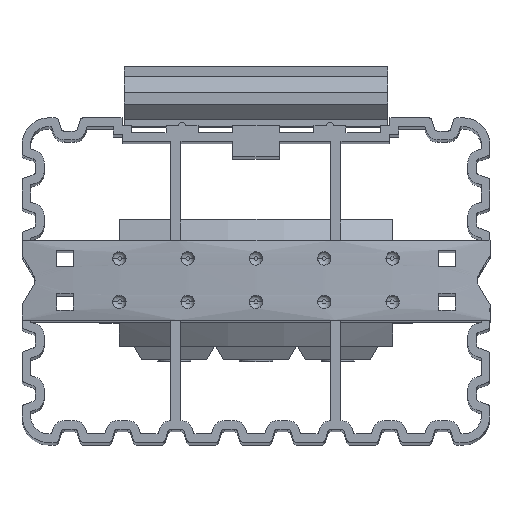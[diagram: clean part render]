
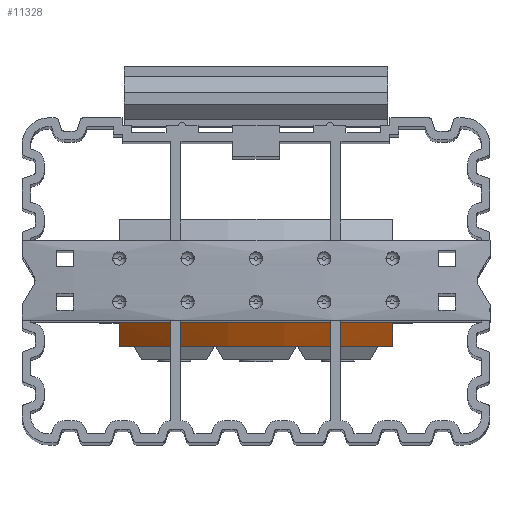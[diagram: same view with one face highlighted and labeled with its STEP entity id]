
A CAD part, top view. The second image highlights one B-rep face of the part: STEP entity #11328.
In plain terms, the highlighted conical face has half-angle 30 degrees and reference radius 54.531 mm.
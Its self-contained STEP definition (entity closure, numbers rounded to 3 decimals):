
#101 = CARTESIAN_POINT ( 'NONE',  ( -20.5, -9.5, -80.188 ) ) ;
#146 = VERTEX_POINT ( 'NONE', #16383 ) ;
#404 = B_SPLINE_CURVE_WITH_KNOTS ( 'NONE', 3,
 ( #11319, #3792, #18874, #101 ),
 .UNSPECIFIED., .F., .F.,
 ( 4, 4 ),
 ( 0., 0.004 ),
 .UNSPECIFIED. ) ;
#562 = EDGE_LOOP ( 'NONE', ( #8502, #1966, #23072, #4160 ) ) ;
#579 = CARTESIAN_POINT ( 'NONE',  ( -20.5, -9.5, -80.188 ) ) ;
#759 = AXIS2_PLACEMENT_3D ( 'NONE', #16417, #14539, #22082 ) ;
#1271 = AXIS2_PLACEMENT_3D ( 'NONE', #24401, #15238, #5849 ) ;
#1966 = ORIENTED_EDGE ( 'NONE', *, *, #23595, .T. ) ;
#2922 = DIRECTION ( 'NONE',  ( 0., 1., 0. ) ) ;
#3565 = EDGE_CURVE ( 'NONE', #12708, #146, #23044, .T. ) ;
#3792 = CARTESIAN_POINT ( 'NONE',  ( -20.5, -7.168, -78.728 ) ) ;
#4160 = ORIENTED_EDGE ( 'NONE', *, *, #3565, .F. ) ;
#5849 = DIRECTION ( 'NONE',  ( 0., 0., 1. ) ) ;
#5973 = CIRCLE ( 'NONE', #1271, 52.511 ) ;
#6051 = CIRCLE ( 'NONE', #9613, 54.531 ) ;
#7202 = CARTESIAN_POINT ( 'NONE',  ( 20.5, -6., -78. ) ) ;
#8168 = VERTEX_POINT ( 'NONE', #579 ) ;
#8502 = ORIENTED_EDGE ( 'NONE', *, *, #15974, .F. ) ;
#8837 = CARTESIAN_POINT ( 'NONE',  ( 20.5, -6., -78. ) ) ;
#8865 = FACE_OUTER_BOUND ( 'NONE', #562, .T. ) ;
#9613 = AXIS2_PLACEMENT_3D ( 'NONE', #20323, #2922, #24166 ) ;
#10531 = CARTESIAN_POINT ( 'NONE',  ( -20.5, -6., -78. ) ) ;
#11319 = CARTESIAN_POINT ( 'NONE',  ( -20.5, -6., -78. ) ) ;
#11328 = ADVANCED_FACE ( 'NONE', ( #8865 ), #22844, .T. ) ;
#12708 = VERTEX_POINT ( 'NONE', #7202 ) ;
#14539 = DIRECTION ( 'NONE',  ( 0., 1., 0. ) ) ;
#15238 = DIRECTION ( 'NONE',  ( 0., 1., 0. ) ) ;
#15974 = EDGE_CURVE ( 'NONE', #18445, #12708, #6051, .T. ) ;
#16383 = CARTESIAN_POINT ( 'NONE',  ( 20.5, -9.5, -80.188 ) ) ;
#16417 = CARTESIAN_POINT ( 'NONE',  ( 0., -6., -128.531 ) ) ;
#18445 = VERTEX_POINT ( 'NONE', #10531 ) ;
#18874 = CARTESIAN_POINT ( 'NONE',  ( -20.5, -8.334, -79.457 ) ) ;
#19716 = CARTESIAN_POINT ( 'NONE',  ( 20.5, -7.168, -78.728 ) ) ;
#19837 = CARTESIAN_POINT ( 'NONE',  ( 20.5, -9.5, -80.188 ) ) ;
#19962 = CARTESIAN_POINT ( 'NONE',  ( 20.5, -8.334, -79.457 ) ) ;
#20323 = CARTESIAN_POINT ( 'NONE',  ( 0., -6., -128.531 ) ) ;
#20734 = EDGE_CURVE ( 'NONE', #8168, #146, #5973, .T. ) ;
#22082 = DIRECTION ( 'NONE',  ( 0., 0., -1. ) ) ;
#22844 = CONICAL_SURFACE ( 'NONE', #759, 54.531, 0.524 ) ;
#23044 = B_SPLINE_CURVE_WITH_KNOTS ( 'NONE', 3,
 ( #8837, #19716, #19962, #19837 ),
 .UNSPECIFIED., .F., .F.,
 ( 4, 4 ),
 ( 0.025, 0.029 ),
 .UNSPECIFIED. ) ;
#23072 = ORIENTED_EDGE ( 'NONE', *, *, #20734, .T. ) ;
#23595 = EDGE_CURVE ( 'NONE', #18445, #8168, #404, .T. ) ;
#24166 = DIRECTION ( 'NONE',  ( 0., 0., -1. ) ) ;
#24401 = CARTESIAN_POINT ( 'NONE',  ( 0., -9.5, -128.531 ) ) ;
